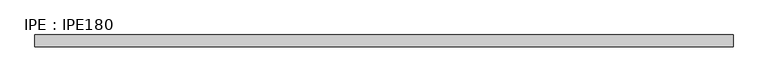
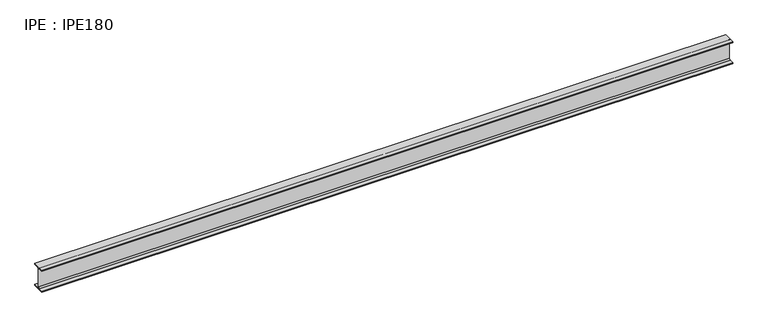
"""IFC4 building model written with IfcOpenShell, lengths in millimetres: beam geometry, IPE : IPE180."""

from ifc_helpers import new_model, si_unit, point, frame, frame_2d, origin, place, context, project, spatial, polyline, circle_curve, trimmed, segment, composite_curve, outline, extrude, source, transform, mapped, element, save


def ipe_ipe180_d82c8111(model_context):
    return source(origin(), model_context, "Body", "SweptSolid", [
        extrude(outline(composite_curve([segment(polyline([(45.5, -82.0), (45.5, -90.0), (-45.5, -90.0), (-45.5, -82.0), (-11.65, -82.0)]), True, "CONTINUOUS"), segment(trimmed(circle_curve(frame_2d((-11.65, -73.0)), 9.0), [point((-11.65, -82.0))], [point((-2.65, -73.0))], True, "CARTESIAN"), True, "CONTINUOUS"), segment(polyline([(-2.65, -73.0), (-2.65, 73.0)]), True, "CONTINUOUS"), segment(trimmed(circle_curve(frame_2d((-11.65, 73.0)), 9.0), [point((-2.65, 73.0))], [point((-11.65, 82.0))], True, "CARTESIAN"), True, "CONTINUOUS"), segment(polyline([(-11.65, 82.0), (-45.5, 82.0), (-45.5, 90.0), (45.5, 90.0), (45.5, 82.0), (11.65, 82.0)]), True, "CONTINUOUS"), segment(trimmed(circle_curve(frame_2d((11.65, 73.0)), 9.0), [point((11.65, 82.0))], [point((2.65, 73.0))], True, "CARTESIAN"), True, "CONTINUOUS"), segment(polyline([(2.65, 73.0), (2.65, -73.0)]), True, "CONTINUOUS"), segment(trimmed(circle_curve(frame_2d((11.65, -73.0)), 9.0), [point((2.65, -73.0))], [point((11.65, -82.0))], True, "CARTESIAN"), True, "CONTINUOUS"), segment(polyline([(11.65, -82.0), (45.5, -82.0)]), True, "CONTINUOUS")], self_intersect=False)), frame((-2552.542798, 0.0, 0.0), z_axis=(1.0, 0.0, 0.0), x_axis=(0.0, 1.0, 0.0)), (0.0, 0.0, 1.0), 5357.565118),
    ])


if __name__ == "__main__":
    model = new_model("IFC4")
    model_context = context("Model", 3, world=origin())
    ifc_project = project(units=[si_unit("LENGTHUNIT", "METRE", prefix="MILLI")], contexts=[model_context])
    site = spatial("IfcSite", under=ifc_project)
    building = spatial("IfcBuilding", under=site)
    placement = place(None, origin())
    ipe_ipe180_shape = ipe_ipe180_d82c8111(model_context)
    element("IfcBeam", 1, ObjectType="IPE : IPE180", at=placement, inside=building, context=model_context, shape_type="MappedRepresentation", body=[
        mapped(ipe_ipe180_shape, transform((0.0, 0.0, 0.0), x_axis=(1.0, 0.0, 0.0), y_axis=(0.0, 1.0, 0.0), z_axis=(0.0, 0.0, 1.0))),
    ])
    save(model, "model.ifc")
